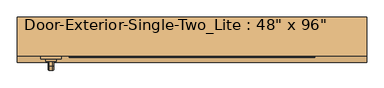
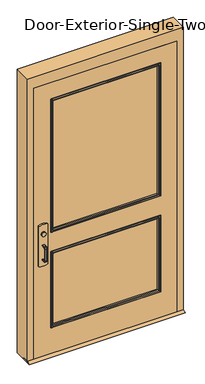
"""IFC4 building model written with IfcOpenShell, lengths in millimetres: door geometry."""

from ifc_helpers import new_model, si_unit, point, frame, frame_2d, origin, place, context, project, spatial, polyline, circle_curve, ellipse_curve, trimmed, segment, composite_curve, outline, extrude, faceted_brep, source, transform, mapped, element, save
from ifc_brep_helpers import plane_surface, cylinder_surface, revolved_surface, advanced_brep


def door_734823c0(model_context):
    return source(origin(), model_context, "Body", "SolidModel", [
        extrude(outline(polyline([(-112.7125, 12.7), (-87.3125, 0.0), (-182.5625, 0.0), (-157.1625, 12.7), (-112.7125, 12.7)])), frame((-660.4, 0.0, 0.0), z_axis=(1.0, 0.0, 0.0), x_axis=(0.0, 1.0, 0.0)), (0.0, 0.0, 1.0), 1320.8),
        extrude(outline(polyline([(201.0833333, -74.6125), (201.0833333, -80.9625), (-501.65, -80.9625), (-501.65, -74.6125), (201.0833333, -74.6125)])), frame((0.0, 0.0, 990.6), z_axis=(0.0, 0.0, 1.0), x_axis=(1.0, 0.0, 0.0)), (0.0, 0.0, 1.0), 50.8),
        advanced_brep(
        [(-565.15, -80.9625, 1041.4), (-501.65, -80.9625, 1041.4), (552.45, -80.9625, 1041.4), (552.45, -80.9625, 990.6), (-501.65, -80.9625, 990.6), (-565.15, -80.9625, 990.6), (552.45, -112.7125, 1041.4), (-501.65, -112.7125, 1041.4), (-501.65, -112.7125, 1104.9), (-520.7, -112.7125, 1123.95), (-546.1, -112.7125, 1123.95), (-565.15, -112.7125, 1104.9), (-565.15, -112.7125, 927.1), (-546.1, -112.7125, 908.05), (-520.7, -112.7125, 908.05), (-501.65, -112.7125, 927.1), (-501.65, -112.7125, 990.6), (552.45, -112.7125, 990.6), (-565.15, -84.1377467, 1041.4), (-501.65, -84.1377467, 1041.4), (-565.15, -84.1377467, 990.6), (-565.15, -89.1479269, 927.1), (-565.15, -89.1479269, 1104.9), (-501.65, -84.1377467, 990.6), (-501.65, -89.1479269, 1104.9), (-501.65, -89.1479269, 927.1), (-520.7, -90.650981, 1123.95), (-546.1, -90.650981, 1123.95), (-546.1, -90.650981, 908.05), (-520.7, -90.650981, 908.05)],
        [
            (0, 1),
            (1, 2),
            (2, 3),
            (3, 4),
            (4, 5),
            (5, 0),
            (6, 7),
            (7, 8),
            (8, 9, circle_curve(frame((-520.7, -112.7125, 1104.9), z_axis=(0.0, -1.0, 0.0), x_axis=(1.0, 0.0, 0.0)), 19.05)),
            (9, 10),
            (10, 11, circle_curve(frame((-546.1, -112.7125, 1104.9), z_axis=(0.0, -1.0, 0.0), x_axis=(1.0, 0.0, 0.0)), 19.05)),
            (11, 12),
            (12, 13, circle_curve(frame((-546.1, -112.7125, 927.1), z_axis=(0.0, -1.0, 0.0), x_axis=(1.0, 0.0, 0.0)), 19.05)),
            (13, 14),
            (14, 15, circle_curve(frame((-520.7, -112.7125, 927.1), z_axis=(0.0, -1.0, 0.0), x_axis=(1.0, 0.0, 0.0)), 19.05)),
            (15, 16),
            (16, 17),
            (17, 6),
            (0, 18),
            (18, 19),
            (19, 7),
            (6, 2),
            (5, 20),
            (20, 21),
            (21, 12),
            (11, 22),
            (22, 18),
            (16, 23),
            (23, 20),
            (3, 17),
            (19, 24),
            (24, 8),
            (15, 25),
            (25, 23),
            (9, 26),
            (26, 27),
            (27, 10),
            (13, 28),
            (28, 29),
            (29, 14),
            (29, 25, ellipse_curve(frame((-520.7, -89.1479269, 927.1), z_axis=(0.0, -0.9969018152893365, 0.07865602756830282), x_axis=(0.0, 0.07865602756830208, 0.9969018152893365)), 19.1092038, 19.05)),
            (24, 26, ellipse_curve(frame((-520.7, -89.1479269, 1104.9), z_axis=(0.0, -0.9969018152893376, -0.07865602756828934), x_axis=(0.0, 0.078656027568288, -0.9969018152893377)), 19.1092038, 19.05)),
            (27, 22, ellipse_curve(frame((-546.1, -89.1479269, 1104.9), z_axis=(0.0, -0.9969018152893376, -0.07865602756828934), x_axis=(0.0, 0.078656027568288, -0.9969018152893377)), 19.1092038, 19.05)),
            (21, 28, ellipse_curve(frame((-546.1, -89.1479269, 927.1), z_axis=(0.0, -0.9969018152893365, 0.07865602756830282), x_axis=(0.0, 0.07865602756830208, 0.9969018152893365)), 19.1092038, 19.05)),
        ],
        [
            plane_surface(frame((-565.15, -80.9625, 1041.4), z_axis=(0.0, 1.0, 0.0), x_axis=(-1.0, 0.0, 0.0))),
            plane_surface(frame((-565.15, -112.7125, 1041.4), z_axis=(0.0, -1.0, 0.0), x_axis=(1.0, 0.0, 0.0))),
            plane_surface(frame((552.45, -80.9625, 1041.4), z_axis=(0.0, 0.0, 1.0), x_axis=(0.0, -1.0, 0.0))),
            plane_surface(frame((-565.15, -80.9625, 1041.4), z_axis=(-1.0, 0.0, 0.0), x_axis=(0.0, -1.0, 0.0))),
            plane_surface(frame((-565.15, -80.9625, 990.6), z_axis=(0.0, 0.0, -1.0), x_axis=(0.0, -1.0, 0.0))),
            plane_surface(frame((552.45, -80.9625, 990.6), z_axis=(1.0, 0.0, 0.0), x_axis=(0.0, -1.0, 0.0))),
            plane_surface(frame((-501.65, -84.1377467, 927.1), z_axis=(1.0, 0.0, 0.0), x_axis=(0.0, -1.0, 0.0))),
            plane_surface(frame((-520.7, -84.1377467, 1123.95), z_axis=(0.0, 0.0, 1.0), x_axis=(0.0, -1.0, 0.0))),
            plane_surface(frame((-546.1, -84.1377467, 908.05), z_axis=(0.0, 0.0, -1.0), x_axis=(0.0, -1.0, 0.0))),
            cylinder_surface(frame((-520.7, -112.7125, 927.1), z_axis=(0.0, 1.0, 0.0), x_axis=(1.0, 0.0, 0.0)), 19.05),
            cylinder_surface(frame((-520.7, -112.7125, 1104.9), z_axis=(0.0, 1.0, 0.0), x_axis=(1.0, 0.0, 0.0)), 19.05),
            cylinder_surface(frame((-546.1, -112.7125, 1104.9), z_axis=(0.0, 1.0, 0.0), x_axis=(1.0, 0.0, 0.0)), 19.05),
            cylinder_surface(frame((-546.1, -112.7125, 927.1), z_axis=(0.0, 1.0, 0.0), x_axis=(1.0, 0.0, 0.0)), 19.05),
            plane_surface(frame((-501.65, -84.1377467, 1041.4), z_axis=(0.0, 0.9969018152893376, 0.07865602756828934), x_axis=(-1.0, 0.0, 0.0))),
            plane_surface(frame((-501.65, -90.650981, 908.05), z_axis=(0.0, 0.9969018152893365, -0.07865602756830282), x_axis=(-1.0, 0.0, 0.0))),
        ],
        [
            (0, [[1, 2, 3, 4, 5, 6]]),
            (1, [[7, 8, 9, 10, 11, 12, 13, 14, 15, 16, 17, 18]]),
            (2, [[-2, -1, 19, 20, 21, -7, 22]]),
            (3, [[23, 24, 25, -12, 26, 27, -19, -6]]),
            (4, [[-17, 28, 29, -23, -5, -4, 30]]),
            (5, [[-22, -18, -30, -3]]),
            (6, [[-21, 31, 32, -8]]),
            (6, [[33, 34, -28, -16]]),
            (7, [[35, 36, 37, -10]]),
            (8, [[38, 39, 40, -14]]),
            (9, [[-40, 41, -33, -15]]),
            (10, [[-32, 42, -35, -9]]),
            (11, [[-37, 43, -26, -11]]),
            (12, [[-25, 44, -38, -13]]),
            (13, [[-27, -43, -36, -42, -31, -20]]),
            (14, [[-29, -34, -41, -39, -44, -24]]),
        ],
    ),
        advanced_brep(
        [(-543.4, -169.8625, 1017.190625), (-539.828125, -169.8625, 1020.7625), (-526.971875, -169.8625, 1020.7625), (-523.4, -169.8625, 1017.190625), (-523.4, -169.8625, 1014.8090406), (-526.9715406, -169.8625, 1011.2375), (-539.828125, -169.8625, 1011.2375), (-543.4, -169.8625, 1014.809375), (-543.4, -169.8625, 887.809375), (-543.4, -169.8625, 890.190625), (-539.828125, -169.8625, 893.7625), (-526.9715406, -169.8625, 893.7625), (-523.4, -169.8625, 890.1909594), (-523.4, -169.8625, 887.809375), (-526.971875, -169.8625, 884.2375), (-539.828125, -169.8625, 884.2375), (-543.4, -195.2625, 1014.809375), (-543.4, -206.771875, 1003.3), (-543.4, -206.771875, 901.7), (-543.4, -195.2625, 890.190625), (-543.4, -195.2625, 887.809375), (-543.4, -209.153125, 901.7), (-543.4, -209.153125, 1003.3), (-543.4, -195.2625, 1017.190625), (-539.828125, -195.2625, 1011.2375), (-526.9715406, -195.2625, 1011.2375), (-523.4, -195.2625, 1014.8090406), (-523.4, -195.2625, 1017.190625), (-523.4, -209.153125, 1003.3), (-523.4, -209.153125, 901.7), (-523.4, -195.2625, 887.809375), (-523.4, -195.2625, 890.1909594), (-523.4, -206.7715406, 901.7), (-523.4, -206.7715406, 1003.3), (-526.971875, -195.2625, 1020.7625), (-539.828125, -195.2625, 1020.7625), (-539.828125, -203.2, 1003.3), (-526.9715406, -203.2, 1003.3), (-526.971875, -212.725, 1003.3), (-539.828125, -212.725, 1003.3), (-539.828125, -203.2, 901.7), (-526.9715406, -203.2, 901.7), (-526.971875, -212.725, 901.7), (-539.828125, -212.725, 901.7), (-539.828125, -195.2625, 893.7625), (-526.9715406, -195.2625, 893.7625), (-526.971875, -195.2625, 884.2375), (-539.828125, -195.2625, 884.2375)],
        [
            (0, 1, circle_curve(frame((-539.828125, -169.8625, 1017.190625), z_axis=(0.0, 1.0, 0.0), x_axis=(0.0, 0.0, 1.0)), 3.571875)),
            (1, 2),
            (2, 3, circle_curve(frame((-526.971875, -169.8625, 1017.190625), z_axis=(0.0, 1.0, 0.0), x_axis=(0.0, 0.0, 1.0)), 3.571875)),
            (3, 4),
            (4, 5, circle_curve(frame((-526.9715406, -169.8625, 1014.8090406), z_axis=(0.0, 1.0, 0.0), x_axis=(0.0, 0.0, 1.0)), 3.5715406)),
            (5, 6),
            (6, 7, circle_curve(frame((-539.828125, -169.8625, 1014.809375), z_axis=(0.0, 1.0, 0.0), x_axis=(0.0, 0.0, 1.0)), 3.571875)),
            (7, 0),
            (8, 9),
            (9, 10, circle_curve(frame((-539.828125, -169.8625, 890.190625), z_axis=(0.0, 1.0, 0.0), x_axis=(0.0, 0.0, -1.0)), 3.571875)),
            (10, 11),
            (11, 12, circle_curve(frame((-526.9715406, -169.8625, 890.1909594), z_axis=(0.0, 1.0, 0.0), x_axis=(0.0, 0.0, -1.0)), 3.5715406)),
            (12, 13),
            (13, 14, circle_curve(frame((-526.971875, -169.8625, 887.809375), z_axis=(0.0, 1.0, 0.0), x_axis=(0.0, 0.0, -1.0)), 3.571875)),
            (14, 15),
            (15, 8, circle_curve(frame((-539.828125, -169.8625, 887.809375), z_axis=(0.0, 1.0, 0.0), x_axis=(0.0, 0.0, -1.0)), 3.571875)),
            (7, 16),
            (16, 17, circle_curve(frame((-543.4, -195.2625, 1003.3), z_axis=(1.0, 0.0, 0.0), x_axis=(0.0, 0.0, 1.0)), 11.509375)),
            (17, 18),
            (18, 19, circle_curve(frame((-543.4, -195.2625, 901.7), z_axis=(1.0, 0.0, 0.0), x_axis=(0.0, -1.0, 0.0)), 11.509375)),
            (19, 9),
            (8, 20),
            (20, 21, circle_curve(frame((-543.4, -195.2625, 901.7), z_axis=(-1.0, 0.0, 0.0), x_axis=(0.0, -1.0, 0.0)), 13.890625)),
            (21, 22),
            (22, 23, circle_curve(frame((-543.4, -195.2625, 1003.3), z_axis=(-1.0, 0.0, 0.0), x_axis=(0.0, 0.0, 1.0)), 13.890625)),
            (23, 0),
            (6, 24),
            (24, 16, circle_curve(frame((-539.828125, -195.2625, 1014.809375), z_axis=(0.0, 1.0, 0.0), x_axis=(0.0, 0.0, 1.0)), 3.571875)),
            (5, 25),
            (25, 24),
            (4, 26),
            (26, 25, circle_curve(frame((-526.9715406, -195.2625, 1014.8090406), z_axis=(0.0, 1.0, 0.0), x_axis=(0.0, 0.0, 1.0)), 3.5715406)),
            (3, 27),
            (27, 28, circle_curve(frame((-523.4, -195.2625, 1003.3), z_axis=(1.0, 0.0, 0.0), x_axis=(0.0, 0.0, 1.0)), 13.890625)),
            (28, 29),
            (29, 30, circle_curve(frame((-523.4, -195.2625, 901.7), z_axis=(1.0, 0.0, 0.0), x_axis=(0.0, -1.0, 0.0)), 13.890625)),
            (30, 13),
            (12, 31),
            (31, 32, circle_curve(frame((-523.4, -195.2625, 901.7), z_axis=(-1.0, 0.0, 0.0), x_axis=(0.0, -1.0, 0.0)), 11.5090406)),
            (32, 33),
            (33, 26, circle_curve(frame((-523.4, -195.2625, 1003.3), z_axis=(-1.0, 0.0, 0.0), x_axis=(0.0, 0.0, 1.0)), 11.5090406)),
            (2, 34),
            (34, 27, circle_curve(frame((-526.971875, -195.2625, 1017.190625), z_axis=(0.0, 1.0, 0.0), x_axis=(0.0, 0.0, 1.0)), 3.571875)),
            (1, 35),
            (35, 34),
            (23, 35, circle_curve(frame((-539.828125, -195.2625, 1017.190625), z_axis=(0.0, 1.0, 0.0), x_axis=(0.0, 0.0, 1.0)), 3.571875)),
            (36, 17, circle_curve(frame((-539.828125, -206.771875, 1003.3), z_axis=(0.0, 0.0, 1.0), x_axis=(0.0, -1.0, 0.0)), 3.571875)),
            (24, 36, circle_curve(frame((-539.828125, -195.2625, 1003.3), z_axis=(1.0, 0.0, 0.0), x_axis=(0.0, 0.0, 1.0)), 7.9375)),
            (37, 36),
            (25, 37, circle_curve(frame((-526.9715406, -195.2625, 1003.3), z_axis=(1.0, 0.0, 0.0), x_axis=(0.0, 0.0, 1.0)), 7.9375)),
            (33, 37, circle_curve(frame((-526.9715406, -206.7715406, 1003.3), z_axis=(0.0, 0.0, 1.0), x_axis=(0.0, -1.0, 0.0)), 3.5715406)),
            (38, 28, circle_curve(frame((-526.971875, -209.153125, 1003.3), z_axis=(0.0, 0.0, 1.0), x_axis=(0.0, -1.0, 0.0)), 3.571875)),
            (34, 38, circle_curve(frame((-526.971875, -195.2625, 1003.3), z_axis=(1.0, 0.0, 0.0), x_axis=(0.0, 0.0, 1.0)), 17.4625)),
            (39, 38),
            (35, 39, circle_curve(frame((-539.828125, -195.2625, 1003.3), z_axis=(1.0, 0.0, 0.0), x_axis=(0.0, 0.0, 1.0)), 17.4625)),
            (22, 39, circle_curve(frame((-539.828125, -209.153125, 1003.3), z_axis=(0.0, 0.0, 1.0), x_axis=(0.0, -1.0, 0.0)), 3.571875)),
            (36, 40),
            (40, 18, circle_curve(frame((-539.828125, -206.771875, 901.7), z_axis=(0.0, 0.0, 1.0), x_axis=(0.0, -1.0, 0.0)), 3.571875)),
            (37, 41),
            (41, 40),
            (32, 41, circle_curve(frame((-526.9715406, -206.7715406, 901.7), z_axis=(0.0, 0.0, 1.0), x_axis=(0.0, -1.0, 0.0)), 3.5715406)),
            (38, 42),
            (42, 29, circle_curve(frame((-526.971875, -209.153125, 901.7), z_axis=(0.0, 0.0, 1.0), x_axis=(0.0, -1.0, 0.0)), 3.571875)),
            (39, 43),
            (43, 42),
            (21, 43, circle_curve(frame((-539.828125, -209.153125, 901.7), z_axis=(0.0, 0.0, 1.0), x_axis=(0.0, -1.0, 0.0)), 3.571875)),
            (44, 19, circle_curve(frame((-539.828125, -195.2625, 890.190625), z_axis=(0.0, -1.0, 0.0), x_axis=(0.0, 0.0, -1.0)), 3.571875)),
            (40, 44, circle_curve(frame((-539.828125, -195.2625, 901.7), z_axis=(1.0, 0.0, 0.0), x_axis=(0.0, -1.0, 0.0)), 7.9375)),
            (45, 44),
            (41, 45, circle_curve(frame((-526.9715406, -195.2625, 901.7), z_axis=(1.0, 0.0, 0.0), x_axis=(0.0, -1.0, 0.0)), 7.9375)),
            (31, 45, circle_curve(frame((-526.9715406, -195.2625, 890.1909594), z_axis=(0.0, -1.0, 0.0), x_axis=(0.0, 0.0, -1.0)), 3.5715406)),
            (46, 30, circle_curve(frame((-526.971875, -195.2625, 887.809375), z_axis=(0.0, -1.0, 0.0), x_axis=(0.0, 0.0, -1.0)), 3.571875)),
            (42, 46, circle_curve(frame((-526.971875, -195.2625, 901.7), z_axis=(1.0, 0.0, 0.0), x_axis=(0.0, -1.0, 0.0)), 17.4625)),
            (47, 46),
            (43, 47, circle_curve(frame((-539.828125, -195.2625, 901.7), z_axis=(1.0, 0.0, 0.0), x_axis=(0.0, -1.0, 0.0)), 17.4625)),
            (20, 47, circle_curve(frame((-539.828125, -195.2625, 887.809375), z_axis=(0.0, -1.0, 0.0), x_axis=(0.0, 0.0, -1.0)), 3.571875)),
            (44, 10),
            (45, 11),
            (46, 14),
            (47, 15),
        ],
        [
            plane_surface(frame((-533.4, -169.8625, 1016.0), z_axis=(0.0, 1.0, 0.0), x_axis=(1.0, 0.0, 0.0))),
            plane_surface(frame((-533.4, -169.8625, 889.0), z_axis=(0.0, 1.0, 0.0), x_axis=(1.0, 0.0, 0.0))),
            plane_surface(frame((-543.4, -169.8625, 1017.190625), z_axis=(-1.0, 0.0, 0.0), x_axis=(0.0, -1.0, 0.0))),
            cylinder_surface(frame((-539.828125, -169.8625, 1014.809375), z_axis=(0.0, 1.0, 0.0), x_axis=(0.0, 0.0, 1.0)), 3.571875),
            plane_surface(frame((-539.828125, -169.8625, 1011.2375), z_axis=(0.0, 0.0, -1.0), x_axis=(0.0, -1.0, 0.0))),
            cylinder_surface(frame((-526.9715406, -169.8625, 1014.8090406), z_axis=(0.0, 1.0, 0.0), x_axis=(0.0, 0.0, 1.0)), 3.5715406),
            plane_surface(frame((-523.4, -169.8625, 1014.8090406), z_axis=(1.0, 0.0, 0.0), x_axis=(0.0, -1.0, 0.0))),
            cylinder_surface(frame((-526.971875, -169.8625, 1017.190625), z_axis=(0.0, 1.0, 0.0), x_axis=(0.0, 0.0, 1.0)), 3.571875),
            plane_surface(frame((-526.971875, -169.8625, 1020.7625), z_axis=(0.0, 0.0, 1.0), x_axis=(0.0, -1.0, 0.0))),
            cylinder_surface(frame((-539.828125, -169.8625, 1017.190625), z_axis=(0.0, 1.0, 0.0), x_axis=(0.0, 0.0, 1.0)), 3.571875),
            revolved_surface(trimmed(ellipse_curve(frame((-539.828125, -195.2625, 1014.809375), z_axis=(0.0, -1.0, 0.0), x_axis=(0.0, 0.0, 1.0)), 3.571875, 3.571875), [point((-543.4, -195.2625, 1014.809375))], [point((-539.828125, -195.2625, 1011.2375))], True, "CARTESIAN"), (-533.4, -195.2625, 1003.3), (-1.0, 0.0, 0.0)),
            revolved_surface(polyline([(-539.828125, -195.2625, 1011.2375), (-526.9715406, -195.2625, 1011.2375)]), (-533.4, -195.2625, 1003.3), (-1.0, 0.0, 0.0)),
            revolved_surface(trimmed(ellipse_curve(frame((-526.9715406, -195.2625, 1014.8090406), z_axis=(0.0, -1.0, 0.0), x_axis=(0.0, 0.0, 1.0)), 3.5715406, 3.5715406), [point((-526.9715406, -195.2625, 1011.2375))], [point((-523.4, -195.2625, 1014.8090406))], True, "CARTESIAN"), (-533.4, -195.2625, 1003.3), (-1.0, 0.0, 0.0)),
            revolved_surface(trimmed(ellipse_curve(frame((-526.971875, -195.2625, 1017.190625), z_axis=(0.0, -1.0, 0.0), x_axis=(0.0, 0.0, 1.0)), 3.571875, 3.571875), [point((-523.4, -195.2625, 1017.190625))], [point((-526.971875, -195.2625, 1020.7625))], True, "CARTESIAN"), (-533.4, -195.2625, 1003.3), (-1.0, 0.0, 0.0)),
            cylinder_surface(frame((-533.4, -195.2625, 1003.3), z_axis=(-1.0, 0.0, 0.0), x_axis=(0.0, 0.0, 1.0)), 17.4625),
            revolved_surface(trimmed(ellipse_curve(frame((-539.828125, -195.2625, 1017.190625), z_axis=(0.0, -1.0, 0.0), x_axis=(0.0, 0.0, 1.0)), 3.571875, 3.571875), [point((-539.828125, -195.2625, 1020.7625))], [point((-543.4, -195.2625, 1017.190625))], True, "CARTESIAN"), (-533.4, -195.2625, 1003.3), (-1.0, 0.0, 0.0)),
            cylinder_surface(frame((-539.828125, -206.771875, 1003.3), z_axis=(0.0, 0.0, 1.0), x_axis=(0.0, -1.0, 0.0)), 3.571875),
            plane_surface(frame((-539.828125, -203.2, 1003.3), z_axis=(0.0, 1.0, 0.0), x_axis=(0.0, 0.0, -1.0))),
            cylinder_surface(frame((-526.9715406, -206.7715406, 1003.3), z_axis=(0.0, 0.0, 1.0), x_axis=(0.0, -1.0, 0.0)), 3.5715406),
            cylinder_surface(frame((-526.971875, -209.153125, 1003.3), z_axis=(0.0, 0.0, 1.0), x_axis=(0.0, -1.0, 0.0)), 3.571875),
            plane_surface(frame((-526.971875, -212.725, 1003.3), z_axis=(0.0, -1.0, 0.0), x_axis=(0.0, 0.0, -1.0))),
            cylinder_surface(frame((-539.828125, -209.153125, 1003.3), z_axis=(0.0, 0.0, 1.0), x_axis=(0.0, -1.0, 0.0)), 3.571875),
            revolved_surface(trimmed(ellipse_curve(frame((-539.828125, -206.771875, 901.7), z_axis=(0.0, 0.0, -1.0), x_axis=(0.0, -1.0, 0.0)), 3.571875, 3.571875), [point((-543.4, -206.771875, 901.7))], [point((-539.828125, -203.2, 901.7))], True, "CARTESIAN"), (-533.4, -195.2625, 901.7), (-1.0, 0.0, 0.0)),
            revolved_surface(polyline([(-539.828125, -203.2, 901.7), (-526.9715406, -203.2, 901.7)]), (-533.4, -195.2625, 901.7), (-1.0, 0.0, 0.0)),
            revolved_surface(trimmed(ellipse_curve(frame((-526.9715406, -206.7715406, 901.7), z_axis=(0.0, 0.0, -1.0), x_axis=(0.0, -1.0, 0.0)), 3.5715406, 3.5715406), [point((-526.9715406, -203.2, 901.7))], [point((-523.4, -206.7715406, 901.7))], True, "CARTESIAN"), (-533.4, -195.2625, 901.7), (-1.0, 0.0, 0.0)),
            revolved_surface(trimmed(ellipse_curve(frame((-526.971875, -209.153125, 901.7), z_axis=(0.0, 0.0, -1.0), x_axis=(0.0, -1.0, 0.0)), 3.571875, 3.571875), [point((-523.4, -209.153125, 901.7))], [point((-526.971875, -212.725, 901.7))], True, "CARTESIAN"), (-533.4, -195.2625, 901.7), (-1.0, 0.0, 0.0)),
            cylinder_surface(frame((-533.4, -195.2625, 901.7), z_axis=(-1.0, 0.0, 0.0), x_axis=(0.0, -1.0, 0.0)), 17.4625),
            revolved_surface(trimmed(ellipse_curve(frame((-539.828125, -209.153125, 901.7), z_axis=(0.0, 0.0, -1.0), x_axis=(0.0, -1.0, 0.0)), 3.571875, 3.571875), [point((-539.828125, -212.725, 901.7))], [point((-543.4, -209.153125, 901.7))], True, "CARTESIAN"), (-533.4, -195.2625, 901.7), (-1.0, 0.0, 0.0)),
            cylinder_surface(frame((-539.828125, -195.2625, 890.190625), z_axis=(0.0, -1.0, 0.0), x_axis=(0.0, 0.0, -1.0)), 3.571875),
            plane_surface(frame((-539.828125, -195.2625, 893.7625), z_axis=(0.0, 0.0, 1.0), x_axis=(0.0, 1.0, 0.0))),
            cylinder_surface(frame((-526.9715406, -195.2625, 890.1909594), z_axis=(0.0, -1.0, 0.0), x_axis=(0.0, 0.0, -1.0)), 3.5715406),
            cylinder_surface(frame((-526.971875, -195.2625, 887.809375), z_axis=(0.0, -1.0, 0.0), x_axis=(0.0, 0.0, -1.0)), 3.571875),
            plane_surface(frame((-526.971875, -195.2625, 884.2375), z_axis=(0.0, 0.0, -1.0), x_axis=(0.0, 1.0, 0.0))),
            cylinder_surface(frame((-539.828125, -195.2625, 887.809375), z_axis=(0.0, -1.0, 0.0), x_axis=(0.0, 0.0, -1.0)), 3.571875),
        ],
        [
            (0, [[1, 2, 3, 4, 5, 6, 7, 8]]),
            (1, [[9, 10, 11, 12, 13, 14, 15, 16]]),
            (2, [[17, 18, 19, 20, 21, -9, 22, 23, 24, 25, 26, -8]]),
            (3, [[27, 28, -17, -7]]),
            (4, [[29, 30, -27, -6]]),
            (5, [[31, 32, -29, -5]]),
            (6, [[33, 34, 35, 36, 37, -13, 38, 39, 40, 41, -31, -4]]),
            (7, [[42, 43, -33, -3]]),
            (8, [[44, 45, -42, -2]]),
            (9, [[-26, 46, -44, -1]]),
            (10, [[47, -18, -28, 48]]),
            (11, [[49, -48, -30, 50]]),
            (12, [[51, -50, -32, -41]]),
            (13, [[52, -34, -43, 53]]),
            (14, [[54, -53, -45, 55]]),
            (15, [[56, -55, -46, -25]]),
            (16, [[57, 58, -19, -47]]),
            (17, [[59, 60, -57, -49]]),
            (18, [[-40, 61, -59, -51]]),
            (19, [[62, 63, -35, -52]]),
            (20, [[64, 65, -62, -54]]),
            (21, [[-24, 66, -64, -56]]),
            (22, [[67, -20, -58, 68]]),
            (23, [[69, -68, -60, 70]]),
            (24, [[71, -70, -61, -39]]),
            (25, [[72, -36, -63, 73]]),
            (26, [[74, -73, -65, 75]]),
            (27, [[76, -75, -66, -23]]),
            (28, [[77, -10, -21, -67]]),
            (29, [[78, -11, -77, -69]]),
            (30, [[-38, -12, -78, -71]]),
            (31, [[79, -14, -37, -72]]),
            (32, [[80, -15, -79, -74]]),
            (33, [[-22, -16, -80, -76]]),
        ],
    ),
        extrude(outline(composite_curve([segment(trimmed(circle_curve(frame_2d((1117.6, -533.4)), 19.0), [point((1117.6, -552.4))], [point((1117.6, -514.4))], False, "CARTESIAN"), True, "CONTINUOUS"), segment(trimmed(circle_curve(frame_2d((1117.6, -533.4)), 19.0), [point((1117.6, -514.4))], [point((1117.6, -552.4))], False, "CARTESIAN"), True, "CONTINUOUS")], self_intersect=False)), frame((0.0, -178.59375, 0.0), z_axis=(0.0, 1.0, 0.0), x_axis=(0.0, 0.0, 1.0)), (0.0, 0.0, 1.0), 8.73125),
        extrude(outline(composite_curve([segment(trimmed(circle_curve(frame_2d((1113.0338574, -533.4)), 89.3016225), [point((1193.8, -495.3))], [point((1193.8, -571.5))], False, "CARTESIAN"), True, "CONTINUOUS"), segment(polyline([(1193.8, -571.5), (838.2, -571.5)]), True, "CONTINUOUS"), segment(trimmed(circle_curve(frame_2d((918.9661426, -533.4)), 89.3016225), [point((838.2, -571.5))], [point((838.2, -495.3))], False, "CARTESIAN"), True, "CONTINUOUS"), segment(polyline([(838.2, -495.3), (1193.8, -495.3)]), True, "CONTINUOUS")], self_intersect=False)), frame((0.0, -169.8625, 0.0), z_axis=(0.0, 1.0, 0.0), x_axis=(0.0, 0.0, 1.0)), (0.0, 0.0, 1.0), 12.7),
        faceted_brep([(609.6, -107.95, 0.0), (593.725, -107.95, 0.0), (593.725, -60.325, 0.0), (609.6, -60.325, 0.0), (609.6, -11.1125, 0.0), (660.4, -11.1125, 0.0), (660.4, -157.1625, 0.0), (609.6, -157.1625, 0.0), (609.6, -157.1625, 2438.4), (609.6, -107.95, 2438.4), (660.4, -157.1625, 2540.0), (-660.4, -157.1625, 2540.0), (-660.4, -157.1625, 0.0), (-609.6, -157.1625, 0.0), (-609.6, -157.1625, 2438.4), (660.4, -11.1125, 2540.0), (609.6, -11.1125, 2438.4), (-609.6, -11.1125, 2438.4), (-609.6, -11.1125, 0.0), (-660.4, -11.1125, 0.0), (-660.4, -11.1125, 2540.0), (609.6, -60.325, 2438.4), (593.725, -60.325, 2422.525), (-593.725, -60.325, 2422.525), (-593.725, -60.325, 0.0), (-609.6, -60.325, 0.0), (-609.6, -60.325, 2438.4), (593.725, -107.95, 2422.525), (-609.6, -107.95, 2438.4), (-609.6, -107.95, 0.0), (-593.725, -107.95, 0.0), (-593.725, -107.95, 2422.525)], [[[0, 1, 2, 3, 4, 5, 6, 7]], [[7, 8, 9, 0]], [[6, 10, 11, 12, 13, 14, 8, 7]], [[5, 15, 10, 6]], [[4, 16, 17, 18, 19, 20, 15, 5]], [[3, 21, 16, 4]], [[2, 22, 23, 24, 25, 26, 21, 3]], [[1, 27, 22, 2]], [[0, 9, 28, 29, 30, 31, 27, 1]], [[8, 14, 28, 9]], [[16, 21, 26, 17]], [[22, 27, 31, 23]], [[12, 19, 18, 25, 24, 30, 29, 13]], [[13, 29, 28, 14]], [[11, 20, 19, 12]], [[17, 26, 25, 18]], [[23, 31, 30, 24]], [[15, 20, 11, 10]]]),
        extrude(outline(polyline([(2438.4, -609.6), (12.7, -609.6), (12.7, 609.6), (2438.4, 609.6), (2438.4, -609.6)]), holes=[polyline([(2286.0, -457.2), (2286.0, 457.2), (1111.25, 457.2), (1111.25, -457.2), (2286.0, -457.2)]), polyline([(920.75, -457.2), (920.75, 457.2), (254.0, 457.2), (254.0, -457.2), (920.75, -457.2)])]), frame((0.0, -157.1625, 0.0), z_axis=(0.0, 1.0, 0.0), x_axis=(0.0, 0.0, 1.0)), (0.0, 0.0, 1.0), 44.45),
        extrude(outline(polyline([(457.2, -125.4125), (457.2, -144.4625), (-457.2, -144.4625), (-457.2, -125.4125), (457.2, -125.4125)])), frame((0.0, 0.0, 1111.25), z_axis=(0.0, 0.0, 1.0), x_axis=(1.0, 0.0, 0.0)), (0.0, 0.0, 1.0), 1174.75),
        extrude(outline(polyline([(457.2, -125.4125), (457.2, -144.4625), (-457.2, -144.4625), (-457.2, -125.4125), (457.2, -125.4125)])), frame((0.0, 0.0, 254.0), z_axis=(0.0, 0.0, 1.0), x_axis=(1.0, 0.0, 0.0)), (0.0, 0.0, 1.0), 666.75),
        advanced_brep(
        [(457.2, -125.4125, 920.75), (457.2, -125.4125, 254.0), (457.2, -112.7125, 254.0), (457.2, -112.7125, 920.75), (445.2, -111.7125, 908.75), (445.2, -111.7125, 266.0), (445.2, -125.4125, 266.0), (445.2, -125.4125, 908.75), (450.2, -106.7125, 913.75), (450.2, -106.7125, 261.0), (465.2, -108.7125, 928.75), (465.2, -108.7125, 246.0), (463.2, -106.7125, 248.0), (463.2, -106.7125, 926.75), (465.2, -112.7125, 928.75), (465.2, -112.7125, 246.0), (-457.2, -125.4125, 254.0), (-457.2, -112.7125, 254.0), (-445.2, -111.7125, 266.0), (-445.2, -125.4125, 266.0), (-450.2, -106.7125, 261.0), (-465.2, -108.7125, 246.0), (-463.2, -106.7125, 248.0), (-465.2, -112.7125, 246.0), (-457.2, -125.4125, 920.75), (-457.2, -112.7125, 920.75), (-445.2, -111.7125, 908.75), (-445.2, -125.4125, 908.75), (-450.2, -106.7125, 913.75), (-465.2, -108.7125, 928.75), (-463.2, -106.7125, 926.75), (-465.2, -112.7125, 928.75)],
        [
            (0, 1),
            (1, 2),
            (2, 3),
            (3, 0),
            (4, 5),
            (5, 6),
            (6, 7),
            (7, 4),
            (8, 9),
            (9, 5, ellipse_curve(frame((450.2, -111.7125, 261.0), z_axis=(0.7071067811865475, 0.0, 0.7071067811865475), x_axis=(-0.7071067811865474, 0.0, 0.7071067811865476)), 7.0710678, 5.0)),
            (4, 8, ellipse_curve(frame((450.2, -111.7125, 913.75), z_axis=(0.7071067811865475, 0.0, -0.7071067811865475), x_axis=(0.7071067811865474, 0.0, 0.7071067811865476)), 7.0710678, 5.0)),
            (10, 11),
            (11, 12, ellipse_curve(frame((463.2, -108.7125, 248.0), z_axis=(0.7071067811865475, 0.0, 0.7071067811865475), x_axis=(-0.7071067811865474, 0.0, 0.7071067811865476)), 2.8284271, 2.0)),
            (12, 13),
            (13, 10, ellipse_curve(frame((463.2, -108.7125, 926.75), z_axis=(0.7071067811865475, 0.0, -0.7071067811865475), x_axis=(0.7071067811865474, 0.0, 0.7071067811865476)), 2.8284271, 2.0)),
            (14, 15),
            (15, 11),
            (10, 14),
            (1, 16),
            (16, 17),
            (17, 2),
            (5, 18),
            (18, 19),
            (19, 6),
            (9, 20),
            (20, 18, ellipse_curve(frame((-450.2, -111.7125, 261.0), z_axis=(0.7071067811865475, 0.0, -0.7071067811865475), x_axis=(0.7071067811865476, 0.0, 0.7071067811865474)), 7.0710678, 5.0)),
            (11, 21),
            (21, 22, ellipse_curve(frame((-463.2, -108.7125, 248.0), z_axis=(0.7071067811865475, 0.0, -0.7071067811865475), x_axis=(0.7071067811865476, 0.0, 0.7071067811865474)), 2.8284271, 2.0)),
            (22, 12),
            (15, 23),
            (23, 21),
            (16, 24),
            (24, 25),
            (25, 17),
            (18, 26),
            (26, 27),
            (27, 19),
            (20, 28),
            (28, 26, ellipse_curve(frame((-450.2, -111.7125, 913.75), z_axis=(-0.7071067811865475, 0.0, -0.7071067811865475), x_axis=(0.7071067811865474, 0.0, -0.7071067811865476)), 7.0710678, 5.0)),
            (21, 29),
            (29, 30, ellipse_curve(frame((-463.2, -108.7125, 926.75), z_axis=(-0.7071067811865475, 0.0, -0.7071067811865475), x_axis=(0.7071067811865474, 0.0, -0.7071067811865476)), 2.8284271, 2.0)),
            (30, 22),
            (23, 31),
            (31, 29),
            (14, 31),
            (25, 3),
            (24, 0),
            (27, 7),
            (26, 4),
            (28, 8),
            (30, 13),
            (29, 10),
        ],
        [
            plane_surface(frame((457.2, -112.7125, 920.75), z_axis=(1.0, 0.0, 0.0), x_axis=(0.0, 0.0, -1.0))),
            plane_surface(frame((445.2, -125.4125, 908.75), z_axis=(-1.0, 0.0, 0.0), x_axis=(0.0, 0.0, -1.0))),
            cylinder_surface(frame((450.2, -111.7125, 920.75), z_axis=(0.0, 0.0, 1.0), x_axis=(1.0, 0.0, 0.0)), 5.0),
            cylinder_surface(frame((463.2, -108.7125, 920.75), z_axis=(0.0, 0.0, 1.0), x_axis=(1.0, 0.0, 0.0)), 2.0),
            plane_surface(frame((465.2, -108.7125, 928.75), z_axis=(1.0, 0.0, 0.0), x_axis=(0.0, 0.0, -1.0))),
            plane_surface(frame((457.2, -112.7125, 254.0), z_axis=(0.0, 0.0, -1.0), x_axis=(-1.0, 0.0, 0.0))),
            plane_surface(frame((445.2, -125.4125, 266.0), z_axis=(0.0, 0.0, 1.0), x_axis=(-1.0, 0.0, 0.0))),
            cylinder_surface(frame((457.2, -111.7125, 261.0), z_axis=(1.0, 0.0, 0.0), x_axis=(0.0, 0.0, -1.0)), 5.0),
            cylinder_surface(frame((457.2, -108.7125, 248.0), z_axis=(1.0, 0.0, 0.0), x_axis=(0.0, 0.0, -1.0)), 2.0),
            plane_surface(frame((465.2, -108.7125, 246.0), z_axis=(0.0, 0.0, -1.0), x_axis=(-1.0, 0.0, 0.0))),
            plane_surface(frame((-457.2, -112.7125, 254.0), z_axis=(-1.0, 0.0, 0.0), x_axis=(0.0, 0.0, 1.0))),
            plane_surface(frame((-445.2, -125.4125, 266.0), z_axis=(1.0, 0.0, 0.0), x_axis=(0.0, 0.0, 1.0))),
            cylinder_surface(frame((-450.2, -111.7125, 254.0), z_axis=(0.0, 0.0, -1.0), x_axis=(-1.0, 0.0, 0.0)), 5.0),
            cylinder_surface(frame((-463.2, -108.7125, 254.0), z_axis=(0.0, 0.0, -1.0), x_axis=(-1.0, 0.0, 0.0)), 2.0),
            plane_surface(frame((-465.2, -108.7125, 246.0), z_axis=(-1.0, 0.0, 0.0), x_axis=(0.0, 0.0, 1.0))),
            plane_surface(frame((-465.2, -112.7125, 928.75), z_axis=(0.0, -1.0, 0.0), x_axis=(1.0, 0.0, 0.0))),
            plane_surface(frame((-457.2, -112.7125, 920.75), z_axis=(0.0, 0.0, 1.0), x_axis=(1.0, 0.0, 0.0))),
            plane_surface(frame((-457.2, -125.4125, 920.75), z_axis=(0.0, -1.0, 0.0), x_axis=(1.0, 0.0, 0.0))),
            plane_surface(frame((-445.2, -125.4125, 908.75), z_axis=(0.0, 0.0, -1.0), x_axis=(1.0, 0.0, 0.0))),
            cylinder_surface(frame((-457.2, -111.7125, 913.75), z_axis=(-1.0, 0.0, 0.0), x_axis=(0.0, 0.0, 1.0)), 5.0),
            plane_surface(frame((-450.2, -106.7125, 913.75), z_axis=(0.0, 1.0, 0.0), x_axis=(1.0, 0.0, 0.0))),
            cylinder_surface(frame((-457.2, -108.7125, 926.75), z_axis=(-1.0, 0.0, 0.0), x_axis=(0.0, 0.0, 1.0)), 2.0),
            plane_surface(frame((-465.2, -108.7125, 928.75), z_axis=(0.0, 0.0, 1.0), x_axis=(1.0, 0.0, 0.0))),
        ],
        [
            (0, [[1, 2, 3, 4]]),
            (1, [[5, 6, 7, 8]]),
            (2, [[9, 10, -5, 11]]),
            (3, [[12, 13, 14, 15]]),
            (4, [[16, 17, -12, 18]]),
            (5, [[19, 20, 21, -2]]),
            (6, [[22, 23, 24, -6]]),
            (7, [[25, 26, -22, -10]]),
            (8, [[27, 28, 29, -13]]),
            (9, [[30, 31, -27, -17]]),
            (10, [[32, 33, 34, -20]]),
            (11, [[35, 36, 37, -23]]),
            (12, [[38, 39, -35, -26]]),
            (13, [[40, 41, 42, -28]]),
            (14, [[43, 44, -40, -31]]),
            (15, [[-16, 45, -43, -30], [-3, -21, -34, 46]]),
            (16, [[47, -4, -46, -33]]),
            (17, [[-1, -47, -32, -19], [-7, -24, -37, 48]]),
            (18, [[49, -8, -48, -36]]),
            (19, [[50, -11, -49, -39]]),
            (20, [[-14, -29, -42, 51], [-9, -50, -38, -25]]),
            (21, [[52, -15, -51, -41]]),
            (22, [[-45, -18, -52, -44]]),
        ],
    ),
        advanced_brep(
        [(-457.2, -144.4625, 920.75), (-457.2, -144.4625, 254.0), (-457.2, -157.1625, 254.0), (-457.2, -157.1625, 920.75), (-445.2, -158.1625, 908.75), (-445.2, -158.1625, 266.0), (-445.2, -144.4625, 266.0), (-445.2, -144.4625, 908.75), (-450.2, -163.1625, 913.75), (-450.2, -163.1625, 261.0), (-465.2, -161.1625, 928.75), (-465.2, -161.1625, 246.0), (-463.2, -163.1625, 248.0), (-463.2, -163.1625, 926.75), (-465.2, -157.1625, 928.75), (-465.2, -157.1625, 246.0), (457.2, -144.4625, 254.0), (457.2, -157.1625, 254.0), (445.2, -158.1625, 266.0), (445.2, -144.4625, 266.0), (450.2, -163.1625, 261.0), (465.2, -161.1625, 246.0), (463.2, -163.1625, 248.0), (465.2, -157.1625, 246.0), (457.2, -144.4625, 920.75), (457.2, -157.1625, 920.75), (445.2, -158.1625, 908.75), (445.2, -144.4625, 908.75), (450.2, -163.1625, 913.75), (465.2, -161.1625, 928.75), (463.2, -163.1625, 926.75), (465.2, -157.1625, 928.75)],
        [
            (0, 1),
            (1, 2),
            (2, 3),
            (3, 0),
            (4, 5),
            (5, 6),
            (6, 7),
            (7, 4),
            (8, 9),
            (9, 5, ellipse_curve(frame((-450.2, -158.1625, 261.0), z_axis=(-0.7071067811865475, 0.0, 0.7071067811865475), x_axis=(0.7071067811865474, 0.0, 0.7071067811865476)), 7.0710678, 5.0)),
            (4, 8, ellipse_curve(frame((-450.2, -158.1625, 913.75), z_axis=(-0.7071067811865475, 0.0, -0.7071067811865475), x_axis=(-0.7071067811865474, 0.0, 0.7071067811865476)), 7.0710678, 5.0)),
            (10, 11),
            (11, 12, ellipse_curve(frame((-463.2, -161.1625, 248.0), z_axis=(-0.7071067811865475, 0.0, 0.7071067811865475), x_axis=(0.7071067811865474, 0.0, 0.7071067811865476)), 2.8284271, 2.0)),
            (12, 13),
            (13, 10, ellipse_curve(frame((-463.2, -161.1625, 926.75), z_axis=(-0.7071067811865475, 0.0, -0.7071067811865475), x_axis=(-0.7071067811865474, 0.0, 0.7071067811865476)), 2.8284271, 2.0)),
            (14, 15),
            (15, 11),
            (10, 14),
            (1, 16),
            (16, 17),
            (17, 2),
            (5, 18),
            (18, 19),
            (19, 6),
            (9, 20),
            (20, 18, ellipse_curve(frame((450.2, -158.1625, 261.0), z_axis=(-0.7071067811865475, 0.0, -0.7071067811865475), x_axis=(-0.7071067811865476, 0.0, 0.7071067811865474)), 7.0710678, 5.0)),
            (11, 21),
            (21, 22, ellipse_curve(frame((463.2, -161.1625, 248.0), z_axis=(-0.7071067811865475, 0.0, -0.7071067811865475), x_axis=(-0.7071067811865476, 0.0, 0.7071067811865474)), 2.8284271, 2.0)),
            (22, 12),
            (15, 23),
            (23, 21),
            (16, 24),
            (24, 25),
            (25, 17),
            (18, 26),
            (26, 27),
            (27, 19),
            (20, 28),
            (28, 26, ellipse_curve(frame((450.2, -158.1625, 913.75), z_axis=(0.7071067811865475, 0.0, -0.7071067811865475), x_axis=(-0.7071067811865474, 0.0, -0.7071067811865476)), 7.0710678, 5.0)),
            (21, 29),
            (29, 30, ellipse_curve(frame((463.2, -161.1625, 926.75), z_axis=(0.7071067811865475, 0.0, -0.7071067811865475), x_axis=(-0.7071067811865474, 0.0, -0.7071067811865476)), 2.8284271, 2.0)),
            (30, 22),
            (23, 31),
            (31, 29),
            (14, 31),
            (25, 3),
            (24, 0),
            (27, 7),
            (26, 4),
            (28, 8),
            (30, 13),
            (29, 10),
        ],
        [
            plane_surface(frame((-457.2, -157.1625, 920.75), z_axis=(-1.0, 0.0, 0.0), x_axis=(0.0, 0.0, -1.0))),
            plane_surface(frame((-445.2, -144.4625, 908.75), z_axis=(1.0, 0.0, 0.0), x_axis=(0.0, 0.0, -1.0))),
            cylinder_surface(frame((-450.2, -158.1625, 920.75), z_axis=(0.0, 0.0, 1.0), x_axis=(-1.0, 0.0, 0.0)), 5.0),
            cylinder_surface(frame((-463.2, -161.1625, 920.75), z_axis=(0.0, 0.0, 1.0), x_axis=(-1.0, 0.0, 0.0)), 2.0),
            plane_surface(frame((-465.2, -161.1625, 928.75), z_axis=(-1.0, 0.0, 0.0), x_axis=(0.0, 0.0, -1.0))),
            plane_surface(frame((-457.2, -157.1625, 254.0), z_axis=(0.0, 0.0, -1.0), x_axis=(1.0, 0.0, 0.0))),
            plane_surface(frame((-445.2, -144.4625, 266.0), z_axis=(0.0, 0.0, 1.0), x_axis=(1.0, 0.0, 0.0))),
            cylinder_surface(frame((-457.2, -158.1625, 261.0), z_axis=(-1.0, 0.0, 0.0), x_axis=(0.0, 0.0, -1.0)), 5.0),
            cylinder_surface(frame((-457.2, -161.1625, 248.0), z_axis=(-1.0, 0.0, 0.0), x_axis=(0.0, 0.0, -1.0)), 2.0),
            plane_surface(frame((-465.2, -161.1625, 246.0), z_axis=(0.0, 0.0, -1.0), x_axis=(1.0, 0.0, 0.0))),
            plane_surface(frame((457.2, -157.1625, 254.0), z_axis=(1.0, 0.0, 0.0), x_axis=(0.0, 0.0, 1.0))),
            plane_surface(frame((445.2, -144.4625, 266.0), z_axis=(-1.0, 0.0, 0.0), x_axis=(0.0, 0.0, 1.0))),
            cylinder_surface(frame((450.2, -158.1625, 254.0), z_axis=(0.0, 0.0, -1.0), x_axis=(1.0, 0.0, 0.0)), 5.0),
            cylinder_surface(frame((463.2, -161.1625, 254.0), z_axis=(0.0, 0.0, -1.0), x_axis=(1.0, 0.0, 0.0)), 2.0),
            plane_surface(frame((465.2, -161.1625, 246.0), z_axis=(1.0, 0.0, 0.0), x_axis=(0.0, 0.0, 1.0))),
            plane_surface(frame((465.2, -157.1625, 928.75), z_axis=(0.0, 1.0, 0.0), x_axis=(-1.0, 0.0, 0.0))),
            plane_surface(frame((457.2, -157.1625, 920.75), z_axis=(0.0, 0.0, 1.0), x_axis=(-1.0, 0.0, 0.0))),
            plane_surface(frame((457.2, -144.4625, 920.75), z_axis=(0.0, 1.0, 0.0), x_axis=(-1.0, 0.0, 0.0))),
            plane_surface(frame((445.2, -144.4625, 908.75), z_axis=(0.0, 0.0, -1.0), x_axis=(-1.0, 0.0, 0.0))),
            cylinder_surface(frame((457.2, -158.1625, 913.75), z_axis=(1.0, 0.0, 0.0), x_axis=(0.0, 0.0, 1.0)), 5.0),
            plane_surface(frame((450.2, -163.1625, 913.75), z_axis=(0.0, -1.0, 0.0), x_axis=(-1.0, 0.0, 0.0))),
            cylinder_surface(frame((457.2, -161.1625, 926.75), z_axis=(1.0, 0.0, 0.0), x_axis=(0.0, 0.0, 1.0)), 2.0),
            plane_surface(frame((465.2, -161.1625, 928.75), z_axis=(0.0, 0.0, 1.0), x_axis=(-1.0, 0.0, 0.0))),
        ],
        [
            (0, [[1, 2, 3, 4]]),
            (1, [[5, 6, 7, 8]]),
            (2, [[9, 10, -5, 11]]),
            (3, [[12, 13, 14, 15]]),
            (4, [[16, 17, -12, 18]]),
            (5, [[19, 20, 21, -2]]),
            (6, [[22, 23, 24, -6]]),
            (7, [[25, 26, -22, -10]]),
            (8, [[27, 28, 29, -13]]),
            (9, [[30, 31, -27, -17]]),
            (10, [[32, 33, 34, -20]]),
            (11, [[35, 36, 37, -23]]),
            (12, [[38, 39, -35, -26]]),
            (13, [[40, 41, 42, -28]]),
            (14, [[43, 44, -40, -31]]),
            (15, [[-16, 45, -43, -30], [-3, -21, -34, 46]]),
            (16, [[47, -4, -46, -33]]),
            (17, [[-1, -47, -32, -19], [-7, -24, -37, 48]]),
            (18, [[49, -8, -48, -36]]),
            (19, [[50, -11, -49, -39]]),
            (20, [[-14, -29, -42, 51], [-9, -50, -38, -25]]),
            (21, [[52, -15, -51, -41]]),
            (22, [[-45, -18, -52, -44]]),
        ],
    ),
        advanced_brep(
        [(-457.2, -125.4125, 1111.25), (-457.2, -125.4125, 2286.0), (-457.2, -112.7125, 2286.0), (-457.2, -112.7125, 1111.25), (-445.2, -111.7125, 1123.25), (-445.2, -111.7125, 2274.0), (-445.2, -125.4125, 2274.0), (-445.2, -125.4125, 1123.25), (-450.2, -106.7125, 1118.25), (-450.2, -106.7125, 2279.0), (-465.2, -108.7125, 1103.25), (-465.2, -108.7125, 2294.0), (-463.2, -106.7125, 2292.0), (-463.2, -106.7125, 1105.25), (-465.2, -112.7125, 1103.25), (-465.2, -112.7125, 2294.0), (457.2, -125.4125, 2286.0), (457.2, -112.7125, 2286.0), (445.2, -111.7125, 2274.0), (445.2, -125.4125, 2274.0), (450.2, -106.7125, 2279.0), (465.2, -108.7125, 2294.0), (463.2, -106.7125, 2292.0), (465.2, -112.7125, 2294.0), (457.2, -125.4125, 1111.25), (457.2, -112.7125, 1111.25), (445.2, -111.7125, 1123.25), (445.2, -125.4125, 1123.25), (450.2, -106.7125, 1118.25), (465.2, -108.7125, 1103.25), (463.2, -106.7125, 1105.25), (465.2, -112.7125, 1103.25)],
        [
            (0, 1),
            (1, 2),
            (2, 3),
            (3, 0),
            (4, 5),
            (5, 6),
            (6, 7),
            (7, 4),
            (8, 9),
            (9, 5, ellipse_curve(frame((-450.2, -111.7125, 2279.0), z_axis=(-0.7071067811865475, 0.0, -0.7071067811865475), x_axis=(0.7071067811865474, 0.0, -0.7071067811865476)), 7.0710678, 5.0)),
            (4, 8, ellipse_curve(frame((-450.2, -111.7125, 1118.25), z_axis=(-0.7071067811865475, 0.0, 0.7071067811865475), x_axis=(-0.7071067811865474, 0.0, -0.7071067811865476)), 7.0710678, 5.0)),
            (10, 11),
            (11, 12, ellipse_curve(frame((-463.2, -108.7125, 2292.0), z_axis=(-0.7071067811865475, 0.0, -0.7071067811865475), x_axis=(0.7071067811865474, 0.0, -0.7071067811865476)), 2.8284271, 2.0)),
            (12, 13),
            (13, 10, ellipse_curve(frame((-463.2, -108.7125, 1105.25), z_axis=(-0.7071067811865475, 0.0, 0.7071067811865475), x_axis=(-0.7071067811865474, 0.0, -0.7071067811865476)), 2.8284271, 2.0)),
            (14, 15),
            (15, 11),
            (10, 14),
            (1, 16),
            (16, 17),
            (17, 2),
            (5, 18),
            (18, 19),
            (19, 6),
            (9, 20),
            (20, 18, ellipse_curve(frame((450.2, -111.7125, 2279.0), z_axis=(-0.7071067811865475, 0.0, 0.7071067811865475), x_axis=(-0.7071067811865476, 0.0, -0.7071067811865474)), 7.0710678, 5.0)),
            (11, 21),
            (21, 22, ellipse_curve(frame((463.2, -108.7125, 2292.0), z_axis=(-0.7071067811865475, 0.0, 0.7071067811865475), x_axis=(-0.7071067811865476, 0.0, -0.7071067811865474)), 2.8284271, 2.0)),
            (22, 12),
            (15, 23),
            (23, 21),
            (16, 24),
            (24, 25),
            (25, 17),
            (18, 26),
            (26, 27),
            (27, 19),
            (20, 28),
            (28, 26, ellipse_curve(frame((450.2, -111.7125, 1118.25), z_axis=(0.7071067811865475, 0.0, 0.7071067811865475), x_axis=(-0.7071067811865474, 0.0, 0.7071067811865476)), 7.0710678, 5.0)),
            (21, 29),
            (29, 30, ellipse_curve(frame((463.2, -108.7125, 1105.25), z_axis=(0.7071067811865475, 0.0, 0.7071067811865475), x_axis=(-0.7071067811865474, 0.0, 0.7071067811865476)), 2.8284271, 2.0)),
            (30, 22),
            (23, 31),
            (31, 29),
            (14, 31),
            (25, 3),
            (24, 0),
            (27, 7),
            (26, 4),
            (28, 8),
            (30, 13),
            (29, 10),
        ],
        [
            plane_surface(frame((-457.2, -112.7125, 1111.25), z_axis=(-1.0, 0.0, 0.0), x_axis=(0.0, 0.0, 1.0))),
            plane_surface(frame((-445.2, -125.4125, 1123.25), z_axis=(1.0, 0.0, 0.0), x_axis=(0.0, 0.0, 1.0))),
            cylinder_surface(frame((-450.2, -111.7125, 1111.25), z_axis=(0.0, 0.0, -1.0), x_axis=(-1.0, 0.0, 0.0)), 5.0),
            cylinder_surface(frame((-463.2, -108.7125, 1111.25), z_axis=(0.0, 0.0, -1.0), x_axis=(-1.0, 0.0, 0.0)), 2.0),
            plane_surface(frame((-465.2, -108.7125, 1103.25), z_axis=(-1.0, 0.0, 0.0), x_axis=(0.0, 0.0, 1.0))),
            plane_surface(frame((-457.2, -112.7125, 2286.0), z_axis=(0.0, 0.0, 1.0), x_axis=(1.0, 0.0, 0.0))),
            plane_surface(frame((-445.2, -125.4125, 2274.0), z_axis=(0.0, 0.0, -1.0), x_axis=(1.0, 0.0, 0.0))),
            cylinder_surface(frame((-457.2, -111.7125, 2279.0), z_axis=(-1.0, 0.0, 0.0), x_axis=(0.0, 0.0, 1.0)), 5.0),
            cylinder_surface(frame((-457.2, -108.7125, 2292.0), z_axis=(-1.0, 0.0, 0.0), x_axis=(0.0, 0.0, 1.0)), 2.0),
            plane_surface(frame((-465.2, -108.7125, 2294.0), z_axis=(0.0, 0.0, 1.0), x_axis=(1.0, 0.0, 0.0))),
            plane_surface(frame((457.2, -112.7125, 2286.0), z_axis=(1.0, 0.0, 0.0), x_axis=(0.0, 0.0, -1.0))),
            plane_surface(frame((445.2, -125.4125, 2274.0), z_axis=(-1.0, 0.0, 0.0), x_axis=(0.0, 0.0, -1.0))),
            cylinder_surface(frame((450.2, -111.7125, 2286.0), z_axis=(0.0, 0.0, 1.0), x_axis=(1.0, 0.0, 0.0)), 5.0),
            cylinder_surface(frame((463.2, -108.7125, 2286.0), z_axis=(0.0, 0.0, 1.0), x_axis=(1.0, 0.0, 0.0)), 2.0),
            plane_surface(frame((465.2, -108.7125, 2294.0), z_axis=(1.0, 0.0, 0.0), x_axis=(0.0, 0.0, -1.0))),
            plane_surface(frame((465.2, -112.7125, 1103.25), z_axis=(0.0, -1.0, 0.0), x_axis=(-1.0, 0.0, 0.0))),
            plane_surface(frame((457.2, -112.7125, 1111.25), z_axis=(0.0, 0.0, -1.0), x_axis=(-1.0, 0.0, 0.0))),
            plane_surface(frame((457.2, -125.4125, 1111.25), z_axis=(0.0, -1.0, 0.0), x_axis=(-1.0, 0.0, 0.0))),
            plane_surface(frame((445.2, -125.4125, 1123.25), z_axis=(0.0, 0.0, 1.0), x_axis=(-1.0, 0.0, 0.0))),
            cylinder_surface(frame((457.2, -111.7125, 1118.25), z_axis=(1.0, 0.0, 0.0), x_axis=(0.0, 0.0, -1.0)), 5.0),
            plane_surface(frame((450.2, -106.7125, 1118.25), z_axis=(0.0, 1.0, 0.0), x_axis=(-1.0, 0.0, 0.0))),
            cylinder_surface(frame((457.2, -108.7125, 1105.25), z_axis=(1.0, 0.0, 0.0), x_axis=(0.0, 0.0, -1.0)), 2.0),
            plane_surface(frame((465.2, -108.7125, 1103.25), z_axis=(0.0, 0.0, -1.0), x_axis=(-1.0, 0.0, 0.0))),
        ],
        [
            (0, [[1, 2, 3, 4]]),
            (1, [[5, 6, 7, 8]]),
            (2, [[9, 10, -5, 11]]),
            (3, [[12, 13, 14, 15]]),
            (4, [[16, 17, -12, 18]]),
            (5, [[19, 20, 21, -2]]),
            (6, [[22, 23, 24, -6]]),
            (7, [[25, 26, -22, -10]]),
            (8, [[27, 28, 29, -13]]),
            (9, [[30, 31, -27, -17]]),
            (10, [[32, 33, 34, -20]]),
            (11, [[35, 36, 37, -23]]),
            (12, [[38, 39, -35, -26]]),
            (13, [[40, 41, 42, -28]]),
            (14, [[43, 44, -40, -31]]),
            (15, [[-16, 45, -43, -30], [-3, -21, -34, 46]]),
            (16, [[47, -4, -46, -33]]),
            (17, [[-1, -47, -32, -19], [-7, -24, -37, 48]]),
            (18, [[49, -8, -48, -36]]),
            (19, [[50, -11, -49, -39]]),
            (20, [[-14, -29, -42, 51], [-9, -50, -38, -25]]),
            (21, [[52, -15, -51, -41]]),
            (22, [[-45, -18, -52, -44]]),
        ],
    ),
        advanced_brep(
        [(-457.2, -144.4625, 2286.0), (-457.2, -144.4625, 1111.25), (-457.2, -157.1625, 1111.25), (-457.2, -157.1625, 2286.0), (-445.2, -158.1625, 2274.0), (-445.2, -158.1625, 1123.25), (-445.2, -144.4625, 1123.25), (-445.2, -144.4625, 2274.0), (-450.2, -163.1625, 2279.0), (-450.2, -163.1625, 1118.25), (-465.2, -161.1625, 2294.0), (-465.2, -161.1625, 1103.25), (-463.2, -163.1625, 1105.25), (-463.2, -163.1625, 2292.0), (-465.2, -157.1625, 2294.0), (-465.2, -157.1625, 1103.25), (457.2, -144.4625, 1111.25), (457.2, -157.1625, 1111.25), (445.2, -158.1625, 1123.25), (445.2, -144.4625, 1123.25), (450.2, -163.1625, 1118.25), (465.2, -161.1625, 1103.25), (463.2, -163.1625, 1105.25), (465.2, -157.1625, 1103.25), (457.2, -144.4625, 2286.0), (457.2, -157.1625, 2286.0), (445.2, -158.1625, 2274.0), (445.2, -144.4625, 2274.0), (450.2, -163.1625, 2279.0), (465.2, -161.1625, 2294.0), (463.2, -163.1625, 2292.0), (465.2, -157.1625, 2294.0)],
        [
            (0, 1),
            (1, 2),
            (2, 3),
            (3, 0),
            (4, 5),
            (5, 6),
            (6, 7),
            (7, 4),
            (8, 9),
            (9, 5, ellipse_curve(frame((-450.2, -158.1625, 1118.25), z_axis=(-0.7071067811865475, 0.0, 0.7071067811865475), x_axis=(0.7071067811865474, 0.0, 0.7071067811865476)), 7.0710678, 5.0)),
            (4, 8, ellipse_curve(frame((-450.2, -158.1625, 2279.0), z_axis=(-0.7071067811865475, 0.0, -0.7071067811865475), x_axis=(-0.7071067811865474, 0.0, 0.7071067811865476)), 7.0710678, 5.0)),
            (10, 11),
            (11, 12, ellipse_curve(frame((-463.2, -161.1625, 1105.25), z_axis=(-0.7071067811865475, 0.0, 0.7071067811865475), x_axis=(0.7071067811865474, 0.0, 0.7071067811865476)), 2.8284271, 2.0)),
            (12, 13),
            (13, 10, ellipse_curve(frame((-463.2, -161.1625, 2292.0), z_axis=(-0.7071067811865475, 0.0, -0.7071067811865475), x_axis=(-0.7071067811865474, 0.0, 0.7071067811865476)), 2.8284271, 2.0)),
            (14, 15),
            (15, 11),
            (10, 14),
            (1, 16),
            (16, 17),
            (17, 2),
            (5, 18),
            (18, 19),
            (19, 6),
            (9, 20),
            (20, 18, ellipse_curve(frame((450.2, -158.1625, 1118.25), z_axis=(-0.7071067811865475, 0.0, -0.7071067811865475), x_axis=(-0.7071067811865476, 0.0, 0.7071067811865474)), 7.0710678, 5.0)),
            (11, 21),
            (21, 22, ellipse_curve(frame((463.2, -161.1625, 1105.25), z_axis=(-0.7071067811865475, 0.0, -0.7071067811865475), x_axis=(-0.7071067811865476, 0.0, 0.7071067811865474)), 2.8284271, 2.0)),
            (22, 12),
            (15, 23),
            (23, 21),
            (16, 24),
            (24, 25),
            (25, 17),
            (18, 26),
            (26, 27),
            (27, 19),
            (20, 28),
            (28, 26, ellipse_curve(frame((450.2, -158.1625, 2279.0), z_axis=(0.7071067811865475, 0.0, -0.7071067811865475), x_axis=(-0.7071067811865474, 0.0, -0.7071067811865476)), 7.0710678, 5.0)),
            (21, 29),
            (29, 30, ellipse_curve(frame((463.2, -161.1625, 2292.0), z_axis=(0.7071067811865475, 0.0, -0.7071067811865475), x_axis=(-0.7071067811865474, 0.0, -0.7071067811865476)), 2.8284271, 2.0)),
            (30, 22),
            (23, 31),
            (31, 29),
            (14, 31),
            (25, 3),
            (24, 0),
            (27, 7),
            (26, 4),
            (28, 8),
            (30, 13),
            (29, 10),
        ],
        [
            plane_surface(frame((-457.2, -157.1625, 2286.0), z_axis=(-1.0, 0.0, 0.0), x_axis=(0.0, 0.0, -1.0))),
            plane_surface(frame((-445.2, -144.4625, 2274.0), z_axis=(1.0, 0.0, 0.0), x_axis=(0.0, 0.0, -1.0))),
            cylinder_surface(frame((-450.2, -158.1625, 2286.0), z_axis=(0.0, 0.0, 1.0), x_axis=(-1.0, 0.0, 0.0)), 5.0),
            cylinder_surface(frame((-463.2, -161.1625, 2286.0), z_axis=(0.0, 0.0, 1.0), x_axis=(-1.0, 0.0, 0.0)), 2.0),
            plane_surface(frame((-465.2, -161.1625, 2294.0), z_axis=(-1.0, 0.0, 0.0), x_axis=(0.0, 0.0, -1.0))),
            plane_surface(frame((-457.2, -157.1625, 1111.25), z_axis=(0.0, 0.0, -1.0), x_axis=(1.0, 0.0, 0.0))),
            plane_surface(frame((-445.2, -144.4625, 1123.25), z_axis=(0.0, 0.0, 1.0), x_axis=(1.0, 0.0, 0.0))),
            cylinder_surface(frame((-457.2, -158.1625, 1118.25), z_axis=(-1.0, 0.0, 0.0), x_axis=(0.0, 0.0, -1.0)), 5.0),
            cylinder_surface(frame((-457.2, -161.1625, 1105.25), z_axis=(-1.0, 0.0, 0.0), x_axis=(0.0, 0.0, -1.0)), 2.0),
            plane_surface(frame((-465.2, -161.1625, 1103.25), z_axis=(0.0, 0.0, -1.0), x_axis=(1.0, 0.0, 0.0))),
            plane_surface(frame((457.2, -157.1625, 1111.25), z_axis=(1.0, 0.0, 0.0), x_axis=(0.0, 0.0, 1.0))),
            plane_surface(frame((445.2, -144.4625, 1123.25), z_axis=(-1.0, 0.0, 0.0), x_axis=(0.0, 0.0, 1.0))),
            cylinder_surface(frame((450.2, -158.1625, 1111.25), z_axis=(0.0, 0.0, -1.0), x_axis=(1.0, 0.0, 0.0)), 5.0),
            cylinder_surface(frame((463.2, -161.1625, 1111.25), z_axis=(0.0, 0.0, -1.0), x_axis=(1.0, 0.0, 0.0)), 2.0),
            plane_surface(frame((465.2, -161.1625, 1103.25), z_axis=(1.0, 0.0, 0.0), x_axis=(0.0, 0.0, 1.0))),
            plane_surface(frame((465.2, -157.1625, 2294.0), z_axis=(0.0, 1.0, 0.0), x_axis=(-1.0, 0.0, 0.0))),
            plane_surface(frame((457.2, -157.1625, 2286.0), z_axis=(0.0, 0.0, 1.0), x_axis=(-1.0, 0.0, 0.0))),
            plane_surface(frame((457.2, -144.4625, 2286.0), z_axis=(0.0, 1.0, 0.0), x_axis=(-1.0, 0.0, 0.0))),
            plane_surface(frame((445.2, -144.4625, 2274.0), z_axis=(0.0, 0.0, -1.0), x_axis=(-1.0, 0.0, 0.0))),
            cylinder_surface(frame((457.2, -158.1625, 2279.0), z_axis=(1.0, 0.0, 0.0), x_axis=(0.0, 0.0, 1.0)), 5.0),
            plane_surface(frame((450.2, -163.1625, 2279.0), z_axis=(0.0, -1.0, 0.0), x_axis=(-1.0, 0.0, 0.0))),
            cylinder_surface(frame((457.2, -161.1625, 2292.0), z_axis=(1.0, 0.0, 0.0), x_axis=(0.0, 0.0, 1.0)), 2.0),
            plane_surface(frame((465.2, -161.1625, 2294.0), z_axis=(0.0, 0.0, 1.0), x_axis=(-1.0, 0.0, 0.0))),
        ],
        [
            (0, [[1, 2, 3, 4]]),
            (1, [[5, 6, 7, 8]]),
            (2, [[9, 10, -5, 11]]),
            (3, [[12, 13, 14, 15]]),
            (4, [[16, 17, -12, 18]]),
            (5, [[19, 20, 21, -2]]),
            (6, [[22, 23, 24, -6]]),
            (7, [[25, 26, -22, -10]]),
            (8, [[27, 28, 29, -13]]),
            (9, [[30, 31, -27, -17]]),
            (10, [[32, 33, 34, -20]]),
            (11, [[35, 36, 37, -23]]),
            (12, [[38, 39, -35, -26]]),
            (13, [[40, 41, 42, -28]]),
            (14, [[43, 44, -40, -31]]),
            (15, [[-16, 45, -43, -30], [-3, -21, -34, 46]]),
            (16, [[47, -4, -46, -33]]),
            (17, [[-1, -47, -32, -19], [-7, -24, -37, 48]]),
            (18, [[49, -8, -48, -36]]),
            (19, [[50, -11, -49, -39]]),
            (20, [[-14, -29, -42, 51], [-9, -50, -38, -25]]),
            (21, [[52, -15, -51, -41]]),
            (22, [[-45, -18, -52, -44]]),
        ],
    ),
    ])


if __name__ == "__main__":
    model = new_model("IFC4")
    model_context = context("Model", 3, world=origin())
    ifc_project = project(units=[si_unit("LENGTHUNIT", "METRE", prefix="MILLI")], contexts=[model_context])
    site = spatial("IfcSite", under=ifc_project)
    building = spatial("IfcBuilding", under=site)
    placement = place(None, origin())
    door_shape = door_734823c0(model_context)
    element("IfcDoor", 1, ObjectType="Door-Exterior-Single-Two_Lite : 48\" x 96\"", at=placement, inside=building, context=model_context, shape_type="MappedRepresentation", body=[
        mapped(door_shape, transform((0.0, 0.0, 0.0), x_axis=(1.0, 0.0, 0.0), y_axis=(0.0, 1.0, 0.0), z_axis=(0.0, 0.0, 1.0))),
    ])
    save(model, "model.ifc")
